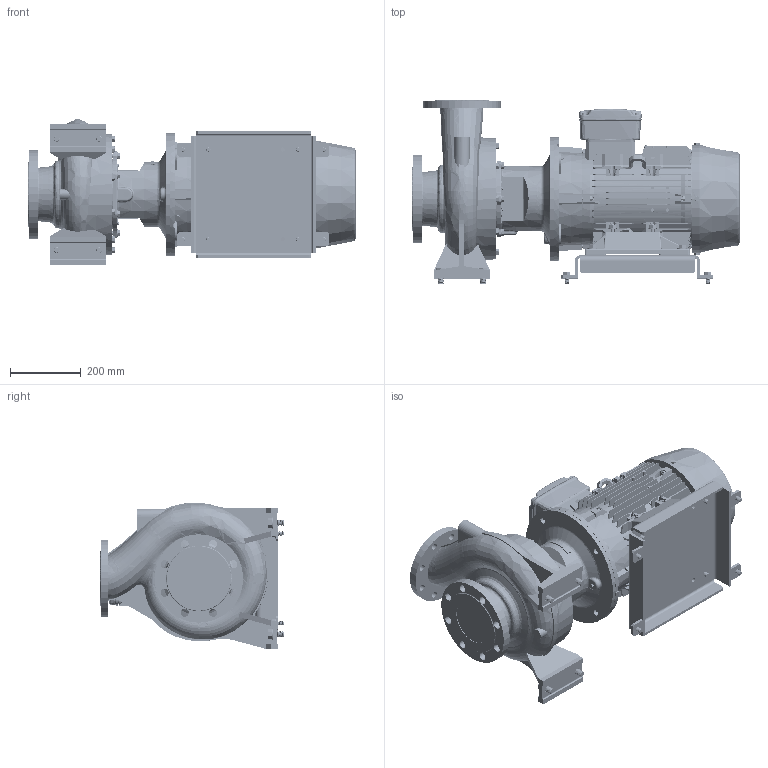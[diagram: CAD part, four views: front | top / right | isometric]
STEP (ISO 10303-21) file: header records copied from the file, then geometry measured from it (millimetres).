
FILE_DESCRIPTION (( 'STEP AP214' ), '1' );
FILE_NAME ('GSD4 100-250_11.0 & 15.0_(160ML)_W21.STEP', '2026-07-01T05:33:26', ( '' ), ( '' ), 'SwSTEP 2.0', 'SolidWorks 2024', '' );
FILE_SCHEMA (( 'AUTOMOTIVE_DESIGN' ));
Length unit declared in the file: millimetre
Products named in the file (12): CGS11-5253; Parametric bolt and washer_SFT-A353B; 160M_L_ALIE3_W21T_B35; Parametric Flat Washer_M12; Parametric bolt_SFT-A353B; GSD4 100-250_11.0 & 15.0_(160ML)_W21; Parametric bolt and washer_SFT-A297B; Parametric bolt and washer_SFT-A303B; Parametric bolt_SFT-A297B; Parametric Flat Washer_M16; 100-250-160M_L_ﾃﾞﾌｫﾙﾄ; Parametric bolt_SFT-A303B
Assembly tree (21 placements, depth 3):
  GSD4 100-250_11.0 & 15.0_(160ML)_W21
    100-250-160M_L_ﾃﾞﾌｫﾙﾄ
    CGS11-5253
    Parametric bolt and washer_SFT-A353B  x4
      Parametric bolt_SFT-A353B
      Parametric Flat Washer_M16
    Parametric bolt and washer_SFT-A297B  x4
      Parametric bolt_SFT-A297B
      Parametric Flat Washer_M12
    Parametric bolt and washer_SFT-A303B  x4
      Parametric bolt_SFT-A303B
      Parametric Flat Washer_M12
    160M_L_ALIE3_W21T_B35
Bounding box: 925.3 x 521 x 413.99 mm (x, y, z)
Volume: 57138145.2 mm3; surface area: 3465359.5 mm2
Topology: 57 solids, 63 shells, 6405 faces, 16537 edges, 10693 vertices
Faces by surface type: plane 3785, cylinder 1287, cone 616, bspline 480, torus 221, sphere 16
Entity records: 247905 total; most frequent: CARTESIAN_POINT 111163, ORIENTED_EDGE 30050, DIRECTION 25213, EDGE_CURVE 15025, VERTEX_POINT 9724, LINE 9513, VECTOR 9513, AXIS2_PLACEMENT_3D 7850
